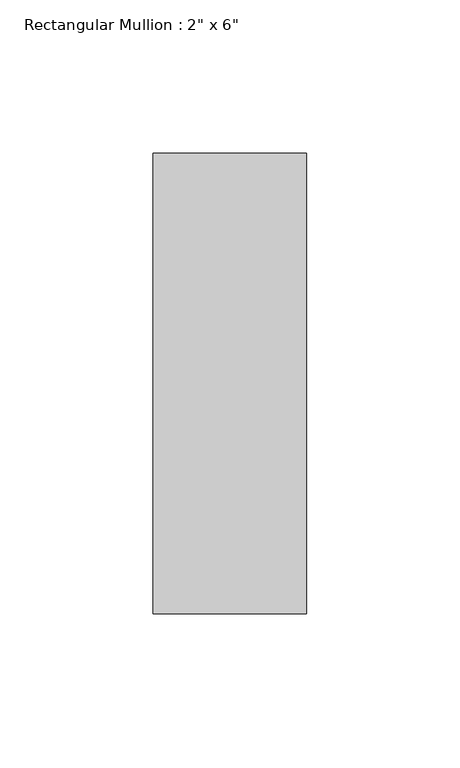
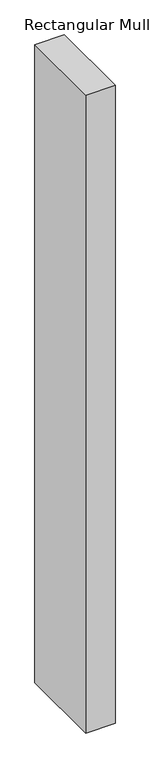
"""IFC4 building model written with IfcOpenShell, lengths in millimetres: member geometry."""

from ifc_helpers import new_model, si_unit, frame, origin, place, context, project, spatial, polyline, outline, extrude, source, transform, mapped, element, save


def member_2cb91f8c(model_context):
    return source(origin(), model_context, "Body", "SweptSolid", [
        extrude(outline(polyline([(25.0, 0.0), (25.0, -150.0), (-25.0, -150.0), (-25.0, 0.0), (25.0, 0.0)])), frame((0.0, 0.0, -1150.0), z_axis=(0.0, 0.0, 1.0), x_axis=(1.0, 0.0, 0.0)), (0.0, 0.0, 1.0), 1150.0),
    ])


if __name__ == "__main__":
    model = new_model("IFC4")
    model_context = context("Model", 3, world=origin())
    ifc_project = project(units=[si_unit("LENGTHUNIT", "METRE", prefix="MILLI")], contexts=[model_context])
    site = spatial("IfcSite", under=ifc_project)
    building = spatial("IfcBuilding", under=site)
    placement = place(None, origin())
    member_shape = member_2cb91f8c(model_context)
    element("IfcMember", 1, ObjectType="Rectangular Mullion : 2\" x 6\"", at=placement, inside=building, context=model_context, shape_type="MappedRepresentation", body=[
        mapped(member_shape, transform((0.0, 0.0, 0.0), x_axis=(1.0, 0.0, 0.0), y_axis=(0.0, 1.0, 0.0), z_axis=(0.0, 0.0, 1.0))),
    ])
    save(model, "model.ifc")
